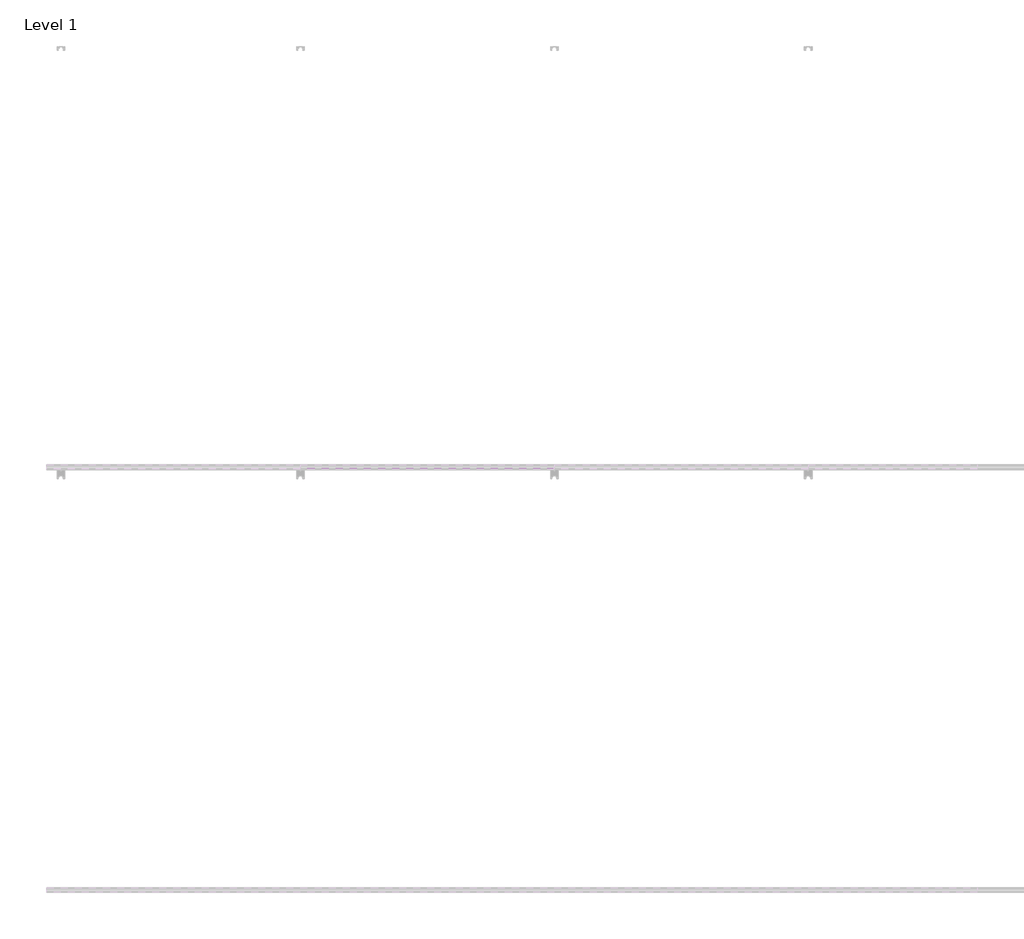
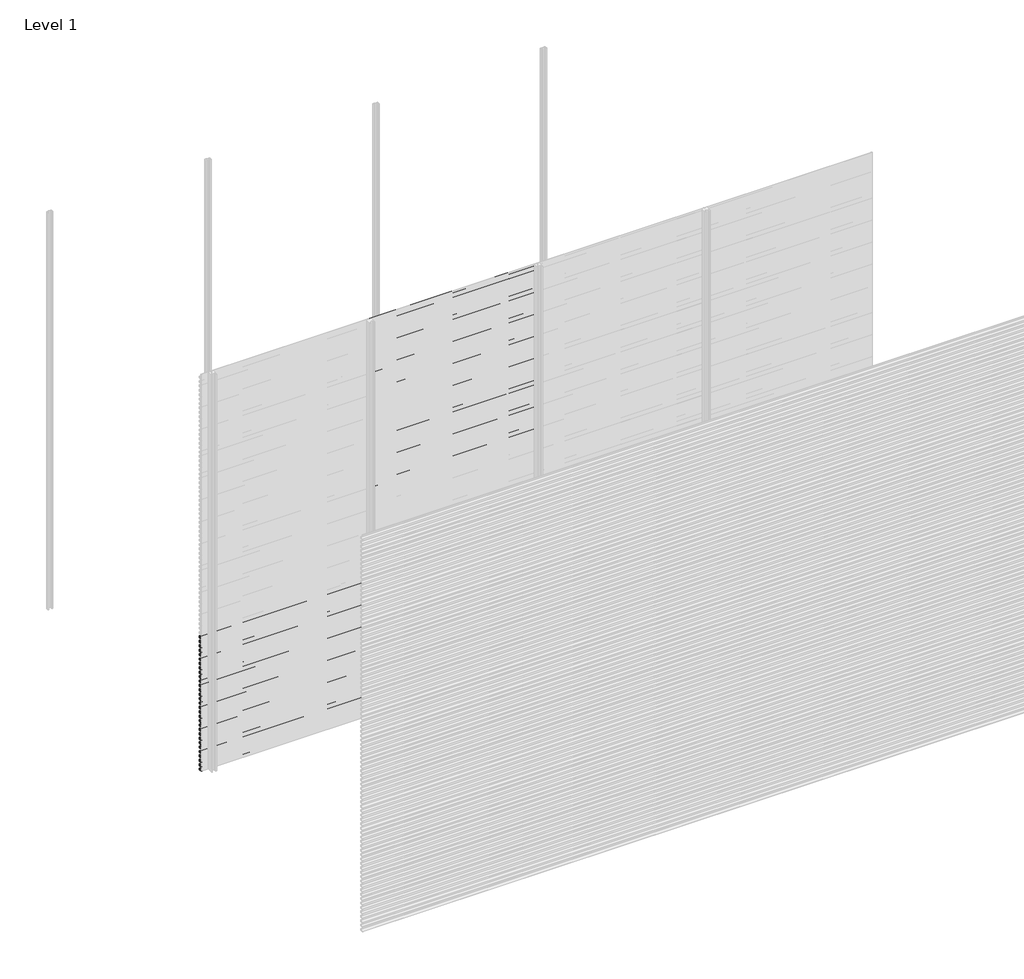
# One storey, part 58 of 77: 72 proxies.
"""IFC4 building model written with IfcOpenShell, lengths in millimetres."""

from ifc_helpers import new_model, si_unit, frame, origin, place, context, project, spatial, polyline, outline, extrude, element, save

model = new_model("IFC4")

# Units and contexts
model_context = context("Model", 3, world=origin())
ifc_project = project(units=[si_unit("LENGTHUNIT", "METRE", prefix="MILLI")], contexts=[model_context])

# Site, building, storey
site = spatial("IfcSite", under=ifc_project)
building = spatial("IfcBuilding", under=site)
storey = spatial("IfcBuildingStorey", under=building, Name="Level 1", Elevation=0.0)

# Proxies
placement = place(None, origin())
element("IfcBuildingElementProxy", 1, Name="Wall Sweeps", at=placement, inside=storey, context=model_context, shape_type="SweptSolid", body=[
    extrude(outline(polyline([(-11978.6, 1007.8359887), (-11998.0, 1019.0366691), (-11998.0, 1032.3), (-11997.0, 1032.3), (-11997.0, 1019.6191057), (-11977.6, 1008.4185105), (-11977.6, 994.8185105), (-11978.6, 996.3953129), (-11978.6, 1002.2032062), (-11995.9773817, 994.1), (-11996.4, 995.0063078), (-11978.6, 1003.3065841), (-11978.6, 1007.8359887)])), frame((0.0, 0.0, 0.0), z_axis=(1.0, 0.0, 0.0), x_axis=(0.0, 1.0, 0.0)), (0.0, 0.0, 1.0), 1200.0),
])
element("IfcBuildingElementProxy", 2, Name="Wall Sweeps", at=placement, inside=storey, context=model_context, shape_type="SweptSolid", body=[
    extrude(outline(polyline([(-11978.6, 974.5359887), (-11998.0, 985.7366691), (-11998.0, 999.0), (-11997.0, 999.0), (-11997.0, 986.3191057), (-11977.6, 975.1185105), (-11977.6, 961.5185105), (-11978.6, 963.0953129), (-11978.6, 968.9032062), (-11995.9773817, 960.8), (-11996.4, 961.7063078), (-11978.6, 970.0065841), (-11978.6, 974.5359887)])), frame((0.0, 0.0, 0.0), z_axis=(1.0, 0.0, 0.0), x_axis=(0.0, 1.0, 0.0)), (0.0, 0.0, 1.0), 1200.0),
])
element("IfcBuildingElementProxy", 3, Name="Wall Sweeps", at=placement, inside=storey, context=model_context, shape_type="SweptSolid", body=[
    extrude(outline(polyline([(-11978.6, 941.2359887), (-11998.0, 952.4366691), (-11998.0, 965.7), (-11997.0, 965.7), (-11997.0, 953.0191057), (-11977.6, 941.8185105), (-11977.6, 928.2185105), (-11978.6, 929.7953129), (-11978.6, 935.6032062), (-11995.9773817, 927.5), (-11996.4, 928.4063078), (-11978.6, 936.7065841), (-11978.6, 941.2359887)])), frame((0.0, 0.0, 0.0), z_axis=(1.0, 0.0, 0.0), x_axis=(0.0, 1.0, 0.0)), (0.0, 0.0, 1.0), 1200.0),
])
element("IfcBuildingElementProxy", 4, Name="Wall Sweeps", at=placement, inside=storey, context=model_context, shape_type="SweptSolid", body=[
    extrude(outline(polyline([(-11978.6, 907.9359887), (-11998.0, 919.1366691), (-11998.0, 932.4), (-11997.0, 932.4), (-11997.0, 919.7191057), (-11977.6, 908.5185105), (-11977.6, 894.9185105), (-11978.6, 896.4953129), (-11978.6, 902.3032062), (-11995.9773817, 894.2), (-11996.4, 895.1063078), (-11978.6, 903.4065841), (-11978.6, 907.9359887)])), frame((0.0, 0.0, 0.0), z_axis=(1.0, 0.0, 0.0), x_axis=(0.0, 1.0, 0.0)), (0.0, 0.0, 1.0), 1200.0),
])
element("IfcBuildingElementProxy", 5, Name="Wall Sweeps", at=placement, inside=storey, context=model_context, shape_type="SweptSolid", body=[
    extrude(outline(polyline([(-11978.6, 874.6359887), (-11998.0, 885.8366691), (-11998.0, 899.1), (-11997.0, 899.1), (-11997.0, 886.4191057), (-11977.6, 875.2185105), (-11977.6, 861.6185105), (-11978.6, 863.1953129), (-11978.6, 869.0032062), (-11995.9773817, 860.9), (-11996.4, 861.8063078), (-11978.6, 870.1065841), (-11978.6, 874.6359887)])), frame((0.0, 0.0, 0.0), z_axis=(1.0, 0.0, 0.0), x_axis=(0.0, 1.0, 0.0)), (0.0, 0.0, 1.0), 1200.0),
])
element("IfcBuildingElementProxy", 6, Name="Wall Sweeps", at=placement, inside=storey, context=model_context, shape_type="SweptSolid", body=[
    extrude(outline(polyline([(-11978.6, 841.3359887), (-11998.0, 852.5366691), (-11998.0, 865.8), (-11997.0, 865.8), (-11997.0, 853.1191057), (-11977.6, 841.9185105), (-11977.6, 828.3185105), (-11978.6, 829.8953129), (-11978.6, 835.7032062), (-11995.9773817, 827.6), (-11996.4, 828.5063078), (-11978.6, 836.8065841), (-11978.6, 841.3359887)])), frame((0.0, 0.0, 0.0), z_axis=(1.0, 0.0, 0.0), x_axis=(0.0, 1.0, 0.0)), (0.0, 0.0, 1.0), 1200.0),
])
element("IfcBuildingElementProxy", 7, Name="Wall Sweeps", at=placement, inside=storey, context=model_context, shape_type="SweptSolid", body=[
    extrude(outline(polyline([(-11978.6, 808.0359887), (-11998.0, 819.2366691), (-11998.0, 832.5), (-11997.0, 832.5), (-11997.0, 819.8191057), (-11977.6, 808.6185105), (-11977.6, 795.0185105), (-11978.6, 796.5953129), (-11978.6, 802.4032062), (-11995.9773817, 794.3), (-11996.4, 795.2063078), (-11978.6, 803.5065841), (-11978.6, 808.0359887)])), frame((0.0, 0.0, 0.0), z_axis=(1.0, 0.0, 0.0), x_axis=(0.0, 1.0, 0.0)), (0.0, 0.0, 1.0), 1200.0),
])
element("IfcBuildingElementProxy", 8, Name="Wall Sweeps", at=placement, inside=storey, context=model_context, shape_type="SweptSolid", body=[
    extrude(outline(polyline([(-11978.6, 774.7359887), (-11998.0, 785.9366691), (-11998.0, 799.2), (-11997.0, 799.2), (-11997.0, 786.5191057), (-11977.6, 775.3185105), (-11977.6, 761.7185105), (-11978.6, 763.2953129), (-11978.6, 769.1032062), (-11995.9773817, 761.0), (-11996.4, 761.9063078), (-11978.6, 770.2065841), (-11978.6, 774.7359887)])), frame((0.0, 0.0, 0.0), z_axis=(1.0, 0.0, 0.0), x_axis=(0.0, 1.0, 0.0)), (0.0, 0.0, 1.0), 1200.0),
])
element("IfcBuildingElementProxy", 9, Name="Wall Sweeps", at=placement, inside=storey, context=model_context, shape_type="SweptSolid", body=[
    extrude(outline(polyline([(-11978.6, 741.4359887), (-11998.0, 752.6366691), (-11998.0, 765.9), (-11997.0, 765.9), (-11997.0, 753.2191057), (-11977.6, 742.0185105), (-11977.6, 728.4185105), (-11978.6, 729.9953129), (-11978.6, 735.8032062), (-11995.9773817, 727.7), (-11996.4, 728.6063078), (-11978.6, 736.9065841), (-11978.6, 741.4359887)])), frame((0.0, 0.0, 0.0), z_axis=(1.0, 0.0, 0.0), x_axis=(0.0, 1.0, 0.0)), (0.0, 0.0, 1.0), 1200.0),
])
element("IfcBuildingElementProxy", 10, Name="Wall Sweeps", at=placement, inside=storey, context=model_context, shape_type="SweptSolid", body=[
    extrude(outline(polyline([(-11978.6, 708.1359887), (-11998.0, 719.3366691), (-11998.0, 732.6), (-11997.0, 732.6), (-11997.0, 719.9191057), (-11977.6, 708.7185105), (-11977.6, 695.1185105), (-11978.6, 696.6953129), (-11978.6, 702.5032062), (-11995.9773817, 694.4), (-11996.4, 695.3063078), (-11978.6, 703.6065841), (-11978.6, 708.1359887)])), frame((0.0, 0.0, 0.0), z_axis=(1.0, 0.0, 0.0), x_axis=(0.0, 1.0, 0.0)), (0.0, 0.0, 1.0), 1200.0),
])
element("IfcBuildingElementProxy", 11, Name="Wall Sweeps", at=placement, inside=storey, context=model_context, shape_type="SweptSolid", body=[
    extrude(outline(polyline([(-11978.6, 674.8359887), (-11998.0, 686.0366691), (-11998.0, 699.3), (-11997.0, 699.3), (-11997.0, 686.6191057), (-11977.6, 675.4185105), (-11977.6, 661.8185105), (-11978.6, 663.3953129), (-11978.6, 669.2032062), (-11995.9773817, 661.1), (-11996.4, 662.0063078), (-11978.6, 670.3065841), (-11978.6, 674.8359887)])), frame((0.0, 0.0, 0.0), z_axis=(1.0, 0.0, 0.0), x_axis=(0.0, 1.0, 0.0)), (0.0, 0.0, 1.0), 1200.0),
])
element("IfcBuildingElementProxy", 12, Name="Wall Sweeps", at=placement, inside=storey, context=model_context, shape_type="SweptSolid", body=[
    extrude(outline(polyline([(-11978.6, 641.5359887), (-11998.0, 652.7366691), (-11998.0, 666.0), (-11997.0, 666.0), (-11997.0, 653.3191057), (-11977.6, 642.1185105), (-11977.6, 628.5185105), (-11978.6, 630.0953129), (-11978.6, 635.9032062), (-11995.9773817, 627.8), (-11996.4, 628.7063078), (-11978.6, 637.0065841), (-11978.6, 641.5359887)])), frame((0.0, 0.0, 0.0), z_axis=(1.0, 0.0, 0.0), x_axis=(0.0, 1.0, 0.0)), (0.0, 0.0, 1.0), 1200.0),
])
element("IfcBuildingElementProxy", 13, Name="Wall Sweeps", at=placement, inside=storey, context=model_context, shape_type="SweptSolid", body=[
    extrude(outline(polyline([(-11978.6, 608.2359887), (-11998.0, 619.4366691), (-11998.0, 632.7), (-11997.0, 632.7), (-11997.0, 620.0191057), (-11977.6, 608.8185105), (-11977.6, 595.2185105), (-11978.6, 596.7953129), (-11978.6, 602.6032062), (-11995.9773817, 594.5), (-11996.4, 595.4063078), (-11978.6, 603.7065841), (-11978.6, 608.2359887)])), frame((0.0, 0.0, 0.0), z_axis=(1.0, 0.0, 0.0), x_axis=(0.0, 1.0, 0.0)), (0.0, 0.0, 1.0), 1200.0),
])
element("IfcBuildingElementProxy", 14, Name="Wall Sweeps", at=placement, inside=storey, context=model_context, shape_type="SweptSolid", body=[
    extrude(outline(polyline([(-11978.6, 574.9359887), (-11998.0, 586.1366691), (-11998.0, 599.4), (-11997.0, 599.4), (-11997.0, 586.7191057), (-11977.6, 575.5185105), (-11977.6, 561.9185105), (-11978.6, 563.4953129), (-11978.6, 569.3032062), (-11995.9773817, 561.2), (-11996.4, 562.1063078), (-11978.6, 570.4065841), (-11978.6, 574.9359887)])), frame((0.0, 0.0, 0.0), z_axis=(1.0, 0.0, 0.0), x_axis=(0.0, 1.0, 0.0)), (0.0, 0.0, 1.0), 1200.0),
])
element("IfcBuildingElementProxy", 15, Name="Wall Sweeps", at=placement, inside=storey, context=model_context, shape_type="SweptSolid", body=[
    extrude(outline(polyline([(-11978.6, 541.6359887), (-11998.0, 552.8366691), (-11998.0, 566.1), (-11997.0, 566.1), (-11997.0, 553.4191057), (-11977.6, 542.2185105), (-11977.6, 528.6185105), (-11978.6, 530.1953129), (-11978.6, 536.0032062), (-11995.9773817, 527.9), (-11996.4, 528.8063078), (-11978.6, 537.1065841), (-11978.6, 541.6359887)])), frame((0.0, 0.0, 0.0), z_axis=(1.0, 0.0, 0.0), x_axis=(0.0, 1.0, 0.0)), (0.0, 0.0, 1.0), 1200.0),
])
element("IfcBuildingElementProxy", 16, Name="Wall Sweeps", at=placement, inside=storey, context=model_context, shape_type="SweptSolid", body=[
    extrude(outline(polyline([(-11978.6, 508.3359887), (-11998.0, 519.5366691), (-11998.0, 532.8), (-11997.0, 532.8), (-11997.0, 520.1191057), (-11977.6, 508.9185105), (-11977.6, 495.3185105), (-11978.6, 496.8953129), (-11978.6, 502.7032062), (-11995.9773817, 494.6), (-11996.4, 495.5063078), (-11978.6, 503.8065841), (-11978.6, 508.3359887)])), frame((0.0, 0.0, 0.0), z_axis=(1.0, 0.0, 0.0), x_axis=(0.0, 1.0, 0.0)), (0.0, 0.0, 1.0), 1200.0),
])
element("IfcBuildingElementProxy", 17, Name="Wall Sweeps", at=placement, inside=storey, context=model_context, shape_type="SweptSolid", body=[
    extrude(outline(polyline([(-11978.6, 475.0359887), (-11998.0, 486.2366691), (-11998.0, 499.5), (-11997.0, 499.5), (-11997.0, 486.8191057), (-11977.6, 475.6185105), (-11977.6, 462.0185105), (-11978.6, 463.5953129), (-11978.6, 469.4032062), (-11995.9773817, 461.3), (-11996.4, 462.2063078), (-11978.6, 470.5065841), (-11978.6, 475.0359887)])), frame((0.0, 0.0, 0.0), z_axis=(1.0, 0.0, 0.0), x_axis=(0.0, 1.0, 0.0)), (0.0, 0.0, 1.0), 1200.0),
])
element("IfcBuildingElementProxy", 18, Name="Wall Sweeps", at=placement, inside=storey, context=model_context, shape_type="SweptSolid", body=[
    extrude(outline(polyline([(-11978.6, 441.7359887), (-11998.0, 452.9366691), (-11998.0, 466.2), (-11997.0, 466.2), (-11997.0, 453.5191057), (-11977.6, 442.3185105), (-11977.6, 428.7185105), (-11978.6, 430.2953129), (-11978.6, 436.1032062), (-11995.9773817, 428.0), (-11996.4, 428.9063078), (-11978.6, 437.2065841), (-11978.6, 441.7359887)])), frame((0.0, 0.0, 0.0), z_axis=(1.0, 0.0, 0.0), x_axis=(0.0, 1.0, 0.0)), (0.0, 0.0, 1.0), 1200.0),
])
element("IfcBuildingElementProxy", 19, Name="Wall Sweeps", at=placement, inside=storey, context=model_context, shape_type="SweptSolid", body=[
    extrude(outline(polyline([(-11978.6, 408.4359887), (-11998.0, 419.6366691), (-11998.0, 432.9), (-11997.0, 432.9), (-11997.0, 420.2191057), (-11977.6, 409.0185105), (-11977.6, 395.4185105), (-11978.6, 396.9953129), (-11978.6, 402.8032062), (-11995.9773817, 394.7), (-11996.4, 395.6063078), (-11978.6, 403.9065841), (-11978.6, 408.4359887)])), frame((0.0, 0.0, 0.0), z_axis=(1.0, 0.0, 0.0), x_axis=(0.0, 1.0, 0.0)), (0.0, 0.0, 1.0), 1200.0),
])
element("IfcBuildingElementProxy", 20, Name="Wall Sweeps", at=placement, inside=storey, context=model_context, shape_type="SweptSolid", body=[
    extrude(outline(polyline([(-11978.6, 375.1359887), (-11998.0, 386.3366691), (-11998.0, 399.6), (-11997.0, 399.6), (-11997.0, 386.9191057), (-11977.6, 375.7185105), (-11977.6, 362.1185105), (-11978.6, 363.6953129), (-11978.6, 369.5032062), (-11995.9773817, 361.4), (-11996.4, 362.3063078), (-11978.6, 370.6065841), (-11978.6, 375.1359887)])), frame((0.0, 0.0, 0.0), z_axis=(1.0, 0.0, 0.0), x_axis=(0.0, 1.0, 0.0)), (0.0, 0.0, 1.0), 1200.0),
])
element("IfcBuildingElementProxy", 21, Name="Wall Sweeps", at=placement, inside=storey, context=model_context, shape_type="SweptSolid", body=[
    extrude(outline(polyline([(-11978.6, 341.8359887), (-11998.0, 353.0366691), (-11998.0, 366.3), (-11997.0, 366.3), (-11997.0, 353.6191057), (-11977.6, 342.4185105), (-11977.6, 328.8185105), (-11978.6, 330.3953129), (-11978.6, 336.2032062), (-11995.9773817, 328.1), (-11996.4, 329.0063078), (-11978.6, 337.3065841), (-11978.6, 341.8359887)])), frame((0.0, 0.0, 0.0), z_axis=(1.0, 0.0, 0.0), x_axis=(0.0, 1.0, 0.0)), (0.0, 0.0, 1.0), 1200.0),
])
element("IfcBuildingElementProxy", 22, Name="Wall Sweeps", at=placement, inside=storey, context=model_context, shape_type="SweptSolid", body=[
    extrude(outline(polyline([(-11978.6, 308.5359887), (-11998.0, 319.7366691), (-11998.0, 333.0), (-11997.0, 333.0), (-11997.0, 320.3191057), (-11977.6, 309.1185105), (-11977.6, 295.5185105), (-11978.6, 297.0953129), (-11978.6, 302.9032062), (-11995.9773817, 294.8), (-11996.4, 295.7063078), (-11978.6, 304.0065841), (-11978.6, 308.5359887)])), frame((0.0, 0.0, 0.0), z_axis=(1.0, 0.0, 0.0), x_axis=(0.0, 1.0, 0.0)), (0.0, 0.0, 1.0), 1200.0),
])
element("IfcBuildingElementProxy", 23, Name="Wall Sweeps", at=placement, inside=storey, context=model_context, shape_type="SweptSolid", body=[
    extrude(outline(polyline([(-11978.6, 275.2359887), (-11998.0, 286.4366691), (-11998.0, 299.7), (-11997.0, 299.7), (-11997.0, 287.0191057), (-11977.6, 275.8185105), (-11977.6, 262.2185105), (-11978.6, 263.7953129), (-11978.6, 269.6032062), (-11995.9773817, 261.5), (-11996.4, 262.4063078), (-11978.6, 270.7065841), (-11978.6, 275.2359887)])), frame((0.0, 0.0, 0.0), z_axis=(1.0, 0.0, 0.0), x_axis=(0.0, 1.0, 0.0)), (0.0, 0.0, 1.0), 1200.0),
])
element("IfcBuildingElementProxy", 24, Name="Wall Sweeps", at=placement, inside=storey, context=model_context, shape_type="SweptSolid", body=[
    extrude(outline(polyline([(-11978.6, 241.9359887), (-11998.0, 253.1366691), (-11998.0, 266.4), (-11997.0, 266.4), (-11997.0, 253.7191057), (-11977.6, 242.5185105), (-11977.6, 228.9185105), (-11978.6, 230.4953129), (-11978.6, 236.3032062), (-11995.9773817, 228.2), (-11996.4, 229.1063078), (-11978.6, 237.4065841), (-11978.6, 241.9359887)])), frame((0.0, 0.0, 0.0), z_axis=(1.0, 0.0, 0.0), x_axis=(0.0, 1.0, 0.0)), (0.0, 0.0, 1.0), 1200.0),
])
element("IfcBuildingElementProxy", 25, Name="Wall Sweeps", at=placement, inside=storey, context=model_context, shape_type="SweptSolid", body=[
    extrude(outline(polyline([(-11978.6, 208.6359887), (-11998.0, 219.8366691), (-11998.0, 233.1), (-11997.0, 233.1), (-11997.0, 220.4191057), (-11977.6, 209.2185105), (-11977.6, 195.6185105), (-11978.6, 197.1953129), (-11978.6, 203.0032062), (-11995.9773817, 194.9), (-11996.4, 195.8063078), (-11978.6, 204.1065841), (-11978.6, 208.6359887)])), frame((0.0, 0.0, 0.0), z_axis=(1.0, 0.0, 0.0), x_axis=(0.0, 1.0, 0.0)), (0.0, 0.0, 1.0), 1200.0),
])
element("IfcBuildingElementProxy", 26, Name="Wall Sweeps", at=placement, inside=storey, context=model_context, shape_type="SweptSolid", body=[
    extrude(outline(polyline([(-11978.6, 175.3359887), (-11998.0, 186.5366691), (-11998.0, 199.8), (-11997.0, 199.8), (-11997.0, 187.1191057), (-11977.6, 175.9185105), (-11977.6, 162.3185105), (-11978.6, 163.8953129), (-11978.6, 169.7032062), (-11995.9773817, 161.6), (-11996.4, 162.5063078), (-11978.6, 170.8065841), (-11978.6, 175.3359887)])), frame((0.0, 0.0, 0.0), z_axis=(1.0, 0.0, 0.0), x_axis=(0.0, 1.0, 0.0)), (0.0, 0.0, 1.0), 1200.0),
])
element("IfcBuildingElementProxy", 27, Name="Wall Sweeps", at=placement, inside=storey, context=model_context, shape_type="SweptSolid", body=[
    extrude(outline(polyline([(-11978.6, 142.0359887), (-11998.0, 153.2366691), (-11998.0, 166.5), (-11997.0, 166.5), (-11997.0, 153.8191057), (-11977.6, 142.6185105), (-11977.6, 129.0185105), (-11978.6, 130.5953129), (-11978.6, 136.4032062), (-11995.9773817, 128.3), (-11996.4, 129.2063078), (-11978.6, 137.5065841), (-11978.6, 142.0359887)])), frame((0.0, 0.0, 0.0), z_axis=(1.0, 0.0, 0.0), x_axis=(0.0, 1.0, 0.0)), (0.0, 0.0, 1.0), 1200.0),
])
element("IfcBuildingElementProxy", 28, Name="Wall Sweeps", at=placement, inside=storey, context=model_context, shape_type="SweptSolid", body=[
    extrude(outline(polyline([(-11978.6, 108.7359887), (-11998.0, 119.9366691), (-11998.0, 133.2), (-11997.0, 133.2), (-11997.0, 120.5191057), (-11977.6, 109.3185105), (-11977.6, 95.7185105), (-11978.6, 97.2953129), (-11978.6, 103.1032062), (-11995.9773817, 95.0), (-11996.4, 95.9063078), (-11978.6, 104.2065841), (-11978.6, 108.7359887)])), frame((0.0, 0.0, 0.0), z_axis=(1.0, 0.0, 0.0), x_axis=(0.0, 1.0, 0.0)), (0.0, 0.0, 1.0), 1200.0),
])
element("IfcBuildingElementProxy", 29, Name="Wall Sweeps", at=placement, inside=storey, context=model_context, shape_type="SweptSolid", body=[
    extrude(outline(polyline([(-11978.6, 75.4359887), (-11998.0, 86.6366691), (-11998.0, 99.9), (-11997.0, 99.9), (-11997.0, 87.2191057), (-11977.6, 76.0185105), (-11977.6, 62.4185105), (-11978.6, 63.9953129), (-11978.6, 69.8032062), (-11995.9773817, 61.7), (-11996.4, 62.6063078), (-11978.6, 70.9065841), (-11978.6, 75.4359887)])), frame((0.0, 0.0, 0.0), z_axis=(1.0, 0.0, 0.0), x_axis=(0.0, 1.0, 0.0)), (0.0, 0.0, 1.0), 1200.0),
])
element("IfcBuildingElementProxy", 30, Name="Wall Sweeps", at=placement, inside=storey, context=model_context, shape_type="SweptSolid", body=[
    extrude(outline(polyline([(-11978.6, 42.1359887), (-11998.0, 53.3366691), (-11998.0, 66.6), (-11997.0, 66.6), (-11997.0, 53.9191057), (-11977.6, 42.7185105), (-11977.6, 29.1185105), (-11978.6, 30.6953129), (-11978.6, 36.5032062), (-11995.9773817, 28.4), (-11996.4, 29.3063078), (-11978.6, 37.6065841), (-11978.6, 42.1359887)])), frame((0.0, 0.0, 0.0), z_axis=(1.0, 0.0, 0.0), x_axis=(0.0, 1.0, 0.0)), (0.0, 0.0, 1.0), 1200.0),
])
element("IfcBuildingElementProxy", 31, Name="Wall Sweeps", at=placement, inside=storey, context=model_context, shape_type="SweptSolid", body=[
    extrude(outline(polyline([(-11978.6, 8.8359887), (-11998.0, 20.0366691), (-11998.0, 33.3), (-11997.0, 33.3), (-11997.0, 20.6191057), (-11977.6, 9.4185105), (-11977.6, -4.1814895), (-11978.6, -2.6046871), (-11978.6, 3.2032062), (-11995.9773817, -4.9), (-11996.4, -3.9936922), (-11978.6, 4.3065841), (-11978.6, 8.8359887)])), frame((0.0, 0.0, 0.0), z_axis=(1.0, 0.0, 0.0), x_axis=(0.0, 1.0, 0.0)), (0.0, 0.0, 1.0), 1200.0),
])
element("IfcBuildingElementProxy", 32, Name="Wall Sweeps", at=placement, inside=storey, context=model_context, shape_type="SweptSolid", body=[
    extrude(outline(polyline([(-11978.6, 2972.5359887), (-11998.0, 2983.7366691), (-11998.0, 2997.0), (-11997.0, 2997.0), (-11997.0, 2984.3191057), (-11977.6, 2973.1185105), (-11977.6, 2959.5185105), (-11978.6, 2961.0953129), (-11978.6, 2966.9032062), (-11995.9773817, 2958.8), (-11996.4, 2959.7063078), (-11978.6, 2968.0065841), (-11978.6, 2972.5359887)])), frame((1200.0, 0.0, 0.0), z_axis=(1.0, 0.0, 0.0), x_axis=(0.0, 1.0, 0.0)), (0.0, 0.0, 1.0), 1200.0),
])
element("IfcBuildingElementProxy", 33, Name="Wall Sweeps", at=placement, inside=storey, context=model_context, shape_type="SweptSolid", body=[
    extrude(outline(polyline([(-11978.6, 2939.2359887), (-11998.0, 2950.4366691), (-11998.0, 2963.7), (-11997.0, 2963.7), (-11997.0, 2951.0191057), (-11977.6, 2939.8185105), (-11977.6, 2926.2185105), (-11978.6, 2927.7953129), (-11978.6, 2933.6032062), (-11995.9773817, 2925.5), (-11996.4, 2926.4063078), (-11978.6, 2934.7065841), (-11978.6, 2939.2359887)])), frame((1200.0, 0.0, 0.0), z_axis=(1.0, 0.0, 0.0), x_axis=(0.0, 1.0, 0.0)), (0.0, 0.0, 1.0), 1200.0),
])
element("IfcBuildingElementProxy", 34, Name="Wall Sweeps", at=placement, inside=storey, context=model_context, shape_type="SweptSolid", body=[
    extrude(outline(polyline([(-11978.6, 2905.9359887), (-11998.0, 2917.1366691), (-11998.0, 2930.4), (-11997.0, 2930.4), (-11997.0, 2917.7191057), (-11977.6, 2906.5185105), (-11977.6, 2892.9185105), (-11978.6, 2894.4953129), (-11978.6, 2900.3032062), (-11995.9773817, 2892.2), (-11996.4, 2893.1063078), (-11978.6, 2901.4065841), (-11978.6, 2905.9359887)])), frame((1200.0, 0.0, 0.0), z_axis=(1.0, 0.0, 0.0), x_axis=(0.0, 1.0, 0.0)), (0.0, 0.0, 1.0), 1200.0),
])
element("IfcBuildingElementProxy", 35, Name="Wall Sweeps", at=placement, inside=storey, context=model_context, shape_type="SweptSolid", body=[
    extrude(outline(polyline([(-11978.6, 2872.6359887), (-11998.0, 2883.8366691), (-11998.0, 2897.1), (-11997.0, 2897.1), (-11997.0, 2884.4191057), (-11977.6, 2873.2185105), (-11977.6, 2859.6185105), (-11978.6, 2861.1953129), (-11978.6, 2867.0032062), (-11995.9773817, 2858.9), (-11996.4, 2859.8063078), (-11978.6, 2868.1065841), (-11978.6, 2872.6359887)])), frame((1200.0, 0.0, 0.0), z_axis=(1.0, 0.0, 0.0), x_axis=(0.0, 1.0, 0.0)), (0.0, 0.0, 1.0), 1200.0),
])
element("IfcBuildingElementProxy", 36, Name="Wall Sweeps", at=placement, inside=storey, context=model_context, shape_type="SweptSolid", body=[
    extrude(outline(polyline([(-11978.6, 2839.3359887), (-11998.0, 2850.5366691), (-11998.0, 2863.8), (-11997.0, 2863.8), (-11997.0, 2851.1191057), (-11977.6, 2839.9185105), (-11977.6, 2826.3185105), (-11978.6, 2827.8953129), (-11978.6, 2833.7032062), (-11995.9773817, 2825.6), (-11996.4, 2826.5063078), (-11978.6, 2834.8065841), (-11978.6, 2839.3359887)])), frame((1200.0, 0.0, 0.0), z_axis=(1.0, 0.0, 0.0), x_axis=(0.0, 1.0, 0.0)), (0.0, 0.0, 1.0), 1200.0),
])
element("IfcBuildingElementProxy", 37, Name="Wall Sweeps", at=placement, inside=storey, context=model_context, shape_type="SweptSolid", body=[
    extrude(outline(polyline([(-11978.6, 2806.0359887), (-11998.0, 2817.2366691), (-11998.0, 2830.5), (-11997.0, 2830.5), (-11997.0, 2817.8191057), (-11977.6, 2806.6185105), (-11977.6, 2793.0185105), (-11978.6, 2794.5953129), (-11978.6, 2800.4032062), (-11995.9773817, 2792.3), (-11996.4, 2793.2063078), (-11978.6, 2801.5065841), (-11978.6, 2806.0359887)])), frame((1200.0, 0.0, 0.0), z_axis=(1.0, 0.0, 0.0), x_axis=(0.0, 1.0, 0.0)), (0.0, 0.0, 1.0), 1200.0),
])
element("IfcBuildingElementProxy", 38, Name="Wall Sweeps", at=placement, inside=storey, context=model_context, shape_type="SweptSolid", body=[
    extrude(outline(polyline([(-11978.6, 2772.7359887), (-11998.0, 2783.9366691), (-11998.0, 2797.2), (-11997.0, 2797.2), (-11997.0, 2784.5191057), (-11977.6, 2773.3185105), (-11977.6, 2759.7185105), (-11978.6, 2761.2953129), (-11978.6, 2767.1032062), (-11995.9773817, 2759.0), (-11996.4, 2759.9063078), (-11978.6, 2768.2065841), (-11978.6, 2772.7359887)])), frame((1200.0, 0.0, 0.0), z_axis=(1.0, 0.0, 0.0), x_axis=(0.0, 1.0, 0.0)), (0.0, 0.0, 1.0), 1200.0),
])
element("IfcBuildingElementProxy", 39, Name="Wall Sweeps", at=placement, inside=storey, context=model_context, shape_type="SweptSolid", body=[
    extrude(outline(polyline([(-11978.6, 2739.4359887), (-11998.0, 2750.6366691), (-11998.0, 2763.9), (-11997.0, 2763.9), (-11997.0, 2751.2191057), (-11977.6, 2740.0185105), (-11977.6, 2726.4185105), (-11978.6, 2727.9953129), (-11978.6, 2733.8032062), (-11995.9773817, 2725.7), (-11996.4, 2726.6063078), (-11978.6, 2734.9065841), (-11978.6, 2739.4359887)])), frame((1200.0, 0.0, 0.0), z_axis=(1.0, 0.0, 0.0), x_axis=(0.0, 1.0, 0.0)), (0.0, 0.0, 1.0), 1200.0),
])
element("IfcBuildingElementProxy", 40, Name="Wall Sweeps", at=placement, inside=storey, context=model_context, shape_type="SweptSolid", body=[
    extrude(outline(polyline([(-11978.6, 2706.1359887), (-11998.0, 2717.3366691), (-11998.0, 2730.6), (-11997.0, 2730.6), (-11997.0, 2717.9191057), (-11977.6, 2706.7185105), (-11977.6, 2693.1185105), (-11978.6, 2694.6953129), (-11978.6, 2700.5032062), (-11995.9773817, 2692.4), (-11996.4, 2693.3063078), (-11978.6, 2701.6065841), (-11978.6, 2706.1359887)])), frame((1200.0, 0.0, 0.0), z_axis=(1.0, 0.0, 0.0), x_axis=(0.0, 1.0, 0.0)), (0.0, 0.0, 1.0), 1200.0),
])
element("IfcBuildingElementProxy", 41, Name="Wall Sweeps", at=placement, inside=storey, context=model_context, shape_type="SweptSolid", body=[
    extrude(outline(polyline([(-11978.6, 2672.8359887), (-11998.0, 2684.0366691), (-11998.0, 2697.3), (-11997.0, 2697.3), (-11997.0, 2684.6191057), (-11977.6, 2673.4185105), (-11977.6, 2659.8185105), (-11978.6, 2661.3953129), (-11978.6, 2667.2032062), (-11995.9773817, 2659.1), (-11996.4, 2660.0063078), (-11978.6, 2668.3065841), (-11978.6, 2672.8359887)])), frame((1200.0, 0.0, 0.0), z_axis=(1.0, 0.0, 0.0), x_axis=(0.0, 1.0, 0.0)), (0.0, 0.0, 1.0), 1200.0),
])
element("IfcBuildingElementProxy", 42, Name="Wall Sweeps", at=placement, inside=storey, context=model_context, shape_type="SweptSolid", body=[
    extrude(outline(polyline([(-11978.6, 2639.5359887), (-11998.0, 2650.7366691), (-11998.0, 2664.0), (-11997.0, 2664.0), (-11997.0, 2651.3191057), (-11977.6, 2640.1185105), (-11977.6, 2626.5185105), (-11978.6, 2628.0953129), (-11978.6, 2633.9032062), (-11995.9773817, 2625.8), (-11996.4, 2626.7063078), (-11978.6, 2635.0065841), (-11978.6, 2639.5359887)])), frame((1200.0, 0.0, 0.0), z_axis=(1.0, 0.0, 0.0), x_axis=(0.0, 1.0, 0.0)), (0.0, 0.0, 1.0), 1200.0),
])
element("IfcBuildingElementProxy", 43, Name="Wall Sweeps", at=placement, inside=storey, context=model_context, shape_type="SweptSolid", body=[
    extrude(outline(polyline([(-11978.6, 2606.2359887), (-11998.0, 2617.4366691), (-11998.0, 2630.7), (-11997.0, 2630.7), (-11997.0, 2618.0191057), (-11977.6, 2606.8185105), (-11977.6, 2593.2185105), (-11978.6, 2594.7953129), (-11978.6, 2600.6032062), (-11995.9773817, 2592.5), (-11996.4, 2593.4063078), (-11978.6, 2601.7065841), (-11978.6, 2606.2359887)])), frame((1200.0, 0.0, 0.0), z_axis=(1.0, 0.0, 0.0), x_axis=(0.0, 1.0, 0.0)), (0.0, 0.0, 1.0), 1200.0),
])
element("IfcBuildingElementProxy", 44, Name="Wall Sweeps", at=placement, inside=storey, context=model_context, shape_type="SweptSolid", body=[
    extrude(outline(polyline([(-11978.6, 2572.9359887), (-11998.0, 2584.1366691), (-11998.0, 2597.4), (-11997.0, 2597.4), (-11997.0, 2584.7191057), (-11977.6, 2573.5185105), (-11977.6, 2559.9185105), (-11978.6, 2561.4953129), (-11978.6, 2567.3032062), (-11995.9773817, 2559.2), (-11996.4, 2560.1063078), (-11978.6, 2568.4065841), (-11978.6, 2572.9359887)])), frame((1200.0, 0.0, 0.0), z_axis=(1.0, 0.0, 0.0), x_axis=(0.0, 1.0, 0.0)), (0.0, 0.0, 1.0), 1200.0),
])
element("IfcBuildingElementProxy", 45, Name="Wall Sweeps", at=placement, inside=storey, context=model_context, shape_type="SweptSolid", body=[
    extrude(outline(polyline([(-11978.6, 2539.6359887), (-11998.0, 2550.8366691), (-11998.0, 2564.1), (-11997.0, 2564.1), (-11997.0, 2551.4191057), (-11977.6, 2540.2185105), (-11977.6, 2526.6185105), (-11978.6, 2528.1953129), (-11978.6, 2534.0032062), (-11995.9773817, 2525.9), (-11996.4, 2526.8063078), (-11978.6, 2535.1065841), (-11978.6, 2539.6359887)])), frame((1200.0, 0.0, 0.0), z_axis=(1.0, 0.0, 0.0), x_axis=(0.0, 1.0, 0.0)), (0.0, 0.0, 1.0), 1200.0),
])
element("IfcBuildingElementProxy", 46, Name="Wall Sweeps", at=placement, inside=storey, context=model_context, shape_type="SweptSolid", body=[
    extrude(outline(polyline([(-11978.6, 2506.3359887), (-11998.0, 2517.5366691), (-11998.0, 2530.8), (-11997.0, 2530.8), (-11997.0, 2518.1191057), (-11977.6, 2506.9185105), (-11977.6, 2493.3185105), (-11978.6, 2494.8953129), (-11978.6, 2500.7032062), (-11995.9773817, 2492.6), (-11996.4, 2493.5063078), (-11978.6, 2501.8065841), (-11978.6, 2506.3359887)])), frame((1200.0, 0.0, 0.0), z_axis=(1.0, 0.0, 0.0), x_axis=(0.0, 1.0, 0.0)), (0.0, 0.0, 1.0), 1200.0),
])
element("IfcBuildingElementProxy", 47, Name="Wall Sweeps", at=placement, inside=storey, context=model_context, shape_type="SweptSolid", body=[
    extrude(outline(polyline([(-11978.6, 2473.0359887), (-11998.0, 2484.2366691), (-11998.0, 2497.5), (-11997.0, 2497.5), (-11997.0, 2484.8191057), (-11977.6, 2473.6185105), (-11977.6, 2460.0185105), (-11978.6, 2461.5953129), (-11978.6, 2467.4032062), (-11995.9773817, 2459.3), (-11996.4, 2460.2063078), (-11978.6, 2468.5065841), (-11978.6, 2473.0359887)])), frame((1200.0, 0.0, 0.0), z_axis=(1.0, 0.0, 0.0), x_axis=(0.0, 1.0, 0.0)), (0.0, 0.0, 1.0), 1200.0),
])
element("IfcBuildingElementProxy", 48, Name="Wall Sweeps", at=placement, inside=storey, context=model_context, shape_type="SweptSolid", body=[
    extrude(outline(polyline([(-11978.6, 2439.7359887), (-11998.0, 2450.9366691), (-11998.0, 2464.2), (-11997.0, 2464.2), (-11997.0, 2451.5191057), (-11977.6, 2440.3185105), (-11977.6, 2426.7185105), (-11978.6, 2428.2953129), (-11978.6, 2434.1032062), (-11995.9773817, 2426.0), (-11996.4, 2426.9063078), (-11978.6, 2435.2065841), (-11978.6, 2439.7359887)])), frame((1200.0, 0.0, 0.0), z_axis=(1.0, 0.0, 0.0), x_axis=(0.0, 1.0, 0.0)), (0.0, 0.0, 1.0), 1200.0),
])
element("IfcBuildingElementProxy", 49, Name="Wall Sweeps", at=placement, inside=storey, context=model_context, shape_type="SweptSolid", body=[
    extrude(outline(polyline([(-11978.6, 2406.4359887), (-11998.0, 2417.6366691), (-11998.0, 2430.9), (-11997.0, 2430.9), (-11997.0, 2418.2191057), (-11977.6, 2407.0185105), (-11977.6, 2393.4185105), (-11978.6, 2394.9953129), (-11978.6, 2400.8032062), (-11995.9773817, 2392.7), (-11996.4, 2393.6063078), (-11978.6, 2401.9065841), (-11978.6, 2406.4359887)])), frame((1200.0, 0.0, 0.0), z_axis=(1.0, 0.0, 0.0), x_axis=(0.0, 1.0, 0.0)), (0.0, 0.0, 1.0), 1200.0),
])
element("IfcBuildingElementProxy", 50, Name="Wall Sweeps", at=placement, inside=storey, context=model_context, shape_type="SweptSolid", body=[
    extrude(outline(polyline([(-11978.6, 2373.1359887), (-11998.0, 2384.3366691), (-11998.0, 2397.6), (-11997.0, 2397.6), (-11997.0, 2384.9191057), (-11977.6, 2373.7185105), (-11977.6, 2360.1185105), (-11978.6, 2361.6953129), (-11978.6, 2367.5032062), (-11995.9773817, 2359.4), (-11996.4, 2360.3063078), (-11978.6, 2368.6065841), (-11978.6, 2373.1359887)])), frame((1200.0, 0.0, 0.0), z_axis=(1.0, 0.0, 0.0), x_axis=(0.0, 1.0, 0.0)), (0.0, 0.0, 1.0), 1200.0),
])
element("IfcBuildingElementProxy", 51, Name="Wall Sweeps", at=placement, inside=storey, context=model_context, shape_type="SweptSolid", body=[
    extrude(outline(polyline([(-11978.6, 2339.8359887), (-11998.0, 2351.0366691), (-11998.0, 2364.3), (-11997.0, 2364.3), (-11997.0, 2351.6191057), (-11977.6, 2340.4185105), (-11977.6, 2326.8185105), (-11978.6, 2328.3953129), (-11978.6, 2334.2032062), (-11995.9773817, 2326.1), (-11996.4, 2327.0063078), (-11978.6, 2335.3065841), (-11978.6, 2339.8359887)])), frame((1200.0, 0.0, 0.0), z_axis=(1.0, 0.0, 0.0), x_axis=(0.0, 1.0, 0.0)), (0.0, 0.0, 1.0), 1200.0),
])
element("IfcBuildingElementProxy", 52, Name="Wall Sweeps", at=placement, inside=storey, context=model_context, shape_type="SweptSolid", body=[
    extrude(outline(polyline([(-11978.6, 2306.5359887), (-11998.0, 2317.7366691), (-11998.0, 2331.0), (-11997.0, 2331.0), (-11997.0, 2318.3191057), (-11977.6, 2307.1185105), (-11977.6, 2293.5185105), (-11978.6, 2295.0953129), (-11978.6, 2300.9032062), (-11995.9773817, 2292.8), (-11996.4, 2293.7063078), (-11978.6, 2302.0065841), (-11978.6, 2306.5359887)])), frame((1200.0, 0.0, 0.0), z_axis=(1.0, 0.0, 0.0), x_axis=(0.0, 1.0, 0.0)), (0.0, 0.0, 1.0), 1200.0),
])
element("IfcBuildingElementProxy", 53, Name="Wall Sweeps", at=placement, inside=storey, context=model_context, shape_type="SweptSolid", body=[
    extrude(outline(polyline([(-11978.6, 2273.2359887), (-11998.0, 2284.4366691), (-11998.0, 2297.7), (-11997.0, 2297.7), (-11997.0, 2285.0191057), (-11977.6, 2273.8185105), (-11977.6, 2260.2185105), (-11978.6, 2261.7953129), (-11978.6, 2267.6032062), (-11995.9773817, 2259.5), (-11996.4, 2260.4063078), (-11978.6, 2268.7065841), (-11978.6, 2273.2359887)])), frame((1200.0, 0.0, 0.0), z_axis=(1.0, 0.0, 0.0), x_axis=(0.0, 1.0, 0.0)), (0.0, 0.0, 1.0), 1200.0),
])
element("IfcBuildingElementProxy", 54, Name="Wall Sweeps", at=placement, inside=storey, context=model_context, shape_type="SweptSolid", body=[
    extrude(outline(polyline([(-11978.6, 2239.9359887), (-11998.0, 2251.1366691), (-11998.0, 2264.4), (-11997.0, 2264.4), (-11997.0, 2251.7191057), (-11977.6, 2240.5185105), (-11977.6, 2226.9185105), (-11978.6, 2228.4953129), (-11978.6, 2234.3032062), (-11995.9773817, 2226.2), (-11996.4, 2227.1063078), (-11978.6, 2235.4065841), (-11978.6, 2239.9359887)])), frame((1200.0, 0.0, 0.0), z_axis=(1.0, 0.0, 0.0), x_axis=(0.0, 1.0, 0.0)), (0.0, 0.0, 1.0), 1200.0),
])
element("IfcBuildingElementProxy", 55, Name="Wall Sweeps", at=placement, inside=storey, context=model_context, shape_type="SweptSolid", body=[
    extrude(outline(polyline([(-11978.6, 2206.6359887), (-11998.0, 2217.8366691), (-11998.0, 2231.1), (-11997.0, 2231.1), (-11997.0, 2218.4191057), (-11977.6, 2207.2185105), (-11977.6, 2193.6185105), (-11978.6, 2195.1953129), (-11978.6, 2201.0032062), (-11995.9773817, 2192.9), (-11996.4, 2193.8063078), (-11978.6, 2202.1065841), (-11978.6, 2206.6359887)])), frame((1200.0, 0.0, 0.0), z_axis=(1.0, 0.0, 0.0), x_axis=(0.0, 1.0, 0.0)), (0.0, 0.0, 1.0), 1200.0),
])
element("IfcBuildingElementProxy", 56, Name="Wall Sweeps", at=placement, inside=storey, context=model_context, shape_type="SweptSolid", body=[
    extrude(outline(polyline([(-11978.6, 2173.3359887), (-11998.0, 2184.5366691), (-11998.0, 2197.8), (-11997.0, 2197.8), (-11997.0, 2185.1191057), (-11977.6, 2173.9185105), (-11977.6, 2160.3185105), (-11978.6, 2161.8953129), (-11978.6, 2167.7032062), (-11995.9773817, 2159.6), (-11996.4, 2160.5063078), (-11978.6, 2168.8065841), (-11978.6, 2173.3359887)])), frame((1200.0, 0.0, 0.0), z_axis=(1.0, 0.0, 0.0), x_axis=(0.0, 1.0, 0.0)), (0.0, 0.0, 1.0), 1200.0),
])
element("IfcBuildingElementProxy", 57, Name="Wall Sweeps", at=placement, inside=storey, context=model_context, shape_type="SweptSolid", body=[
    extrude(outline(polyline([(-11978.6, 2140.0359887), (-11998.0, 2151.2366691), (-11998.0, 2164.5), (-11997.0, 2164.5), (-11997.0, 2151.8191057), (-11977.6, 2140.6185105), (-11977.6, 2127.0185105), (-11978.6, 2128.5953129), (-11978.6, 2134.4032062), (-11995.9773817, 2126.3), (-11996.4, 2127.2063078), (-11978.6, 2135.5065841), (-11978.6, 2140.0359887)])), frame((1200.0, 0.0, 0.0), z_axis=(1.0, 0.0, 0.0), x_axis=(0.0, 1.0, 0.0)), (0.0, 0.0, 1.0), 1200.0),
])
element("IfcBuildingElementProxy", 58, Name="Wall Sweeps", at=placement, inside=storey, context=model_context, shape_type="SweptSolid", body=[
    extrude(outline(polyline([(-11978.6, 2106.7359887), (-11998.0, 2117.9366691), (-11998.0, 2131.2), (-11997.0, 2131.2), (-11997.0, 2118.5191057), (-11977.6, 2107.3185105), (-11977.6, 2093.7185105), (-11978.6, 2095.2953129), (-11978.6, 2101.1032062), (-11995.9773817, 2093.0), (-11996.4, 2093.9063078), (-11978.6, 2102.2065841), (-11978.6, 2106.7359887)])), frame((1200.0, 0.0, 0.0), z_axis=(1.0, 0.0, 0.0), x_axis=(0.0, 1.0, 0.0)), (0.0, 0.0, 1.0), 1200.0),
])
element("IfcBuildingElementProxy", 59, Name="Wall Sweeps", at=placement, inside=storey, context=model_context, shape_type="SweptSolid", body=[
    extrude(outline(polyline([(-11978.6, 2073.4359887), (-11998.0, 2084.6366691), (-11998.0, 2097.9), (-11997.0, 2097.9), (-11997.0, 2085.2191057), (-11977.6, 2074.0185105), (-11977.6, 2060.4185105), (-11978.6, 2061.9953129), (-11978.6, 2067.8032062), (-11995.9773817, 2059.7), (-11996.4, 2060.6063078), (-11978.6, 2068.9065841), (-11978.6, 2073.4359887)])), frame((1200.0, 0.0, 0.0), z_axis=(1.0, 0.0, 0.0), x_axis=(0.0, 1.0, 0.0)), (0.0, 0.0, 1.0), 1200.0),
])
element("IfcBuildingElementProxy", 60, Name="Wall Sweeps", at=placement, inside=storey, context=model_context, shape_type="SweptSolid", body=[
    extrude(outline(polyline([(-11978.6, 2040.1359887), (-11998.0, 2051.3366691), (-11998.0, 2064.6), (-11997.0, 2064.6), (-11997.0, 2051.9191057), (-11977.6, 2040.7185105), (-11977.6, 2027.1185105), (-11978.6, 2028.6953129), (-11978.6, 2034.5032062), (-11995.9773817, 2026.4), (-11996.4, 2027.3063078), (-11978.6, 2035.6065841), (-11978.6, 2040.1359887)])), frame((1200.0, 0.0, 0.0), z_axis=(1.0, 0.0, 0.0), x_axis=(0.0, 1.0, 0.0)), (0.0, 0.0, 1.0), 1200.0),
])
element("IfcBuildingElementProxy", 61, Name="Wall Sweeps", at=placement, inside=storey, context=model_context, shape_type="SweptSolid", body=[
    extrude(outline(polyline([(-11978.6, 2006.8359887), (-11998.0, 2018.0366691), (-11998.0, 2031.3), (-11997.0, 2031.3), (-11997.0, 2018.6191057), (-11977.6, 2007.4185105), (-11977.6, 1993.8185105), (-11978.6, 1995.3953129), (-11978.6, 2001.2032062), (-11995.9773817, 1993.1), (-11996.4, 1994.0063078), (-11978.6, 2002.3065841), (-11978.6, 2006.8359887)])), frame((1200.0, 0.0, 0.0), z_axis=(1.0, 0.0, 0.0), x_axis=(0.0, 1.0, 0.0)), (0.0, 0.0, 1.0), 1200.0),
])
element("IfcBuildingElementProxy", 62, Name="Wall Sweeps", at=placement, inside=storey, context=model_context, shape_type="SweptSolid", body=[
    extrude(outline(polyline([(-11978.6, 1973.5359887), (-11998.0, 1984.7366691), (-11998.0, 1998.0), (-11997.0, 1998.0), (-11997.0, 1985.3191057), (-11977.6, 1974.1185105), (-11977.6, 1960.5185105), (-11978.6, 1962.0953129), (-11978.6, 1967.9032062), (-11995.9773817, 1959.8), (-11996.4, 1960.7063078), (-11978.6, 1969.0065841), (-11978.6, 1973.5359887)])), frame((1200.0, 0.0, 0.0), z_axis=(1.0, 0.0, 0.0), x_axis=(0.0, 1.0, 0.0)), (0.0, 0.0, 1.0), 1200.0),
])
element("IfcBuildingElementProxy", 63, Name="Wall Sweeps", at=placement, inside=storey, context=model_context, shape_type="SweptSolid", body=[
    extrude(outline(polyline([(-11978.6, 1940.2359887), (-11998.0, 1951.4366691), (-11998.0, 1964.7), (-11997.0, 1964.7), (-11997.0, 1952.0191057), (-11977.6, 1940.8185105), (-11977.6, 1927.2185105), (-11978.6, 1928.7953129), (-11978.6, 1934.6032062), (-11995.9773817, 1926.5), (-11996.4, 1927.4063078), (-11978.6, 1935.7065841), (-11978.6, 1940.2359887)])), frame((1200.0, 0.0, 0.0), z_axis=(1.0, 0.0, 0.0), x_axis=(0.0, 1.0, 0.0)), (0.0, 0.0, 1.0), 1200.0),
])
element("IfcBuildingElementProxy", 64, Name="Wall Sweeps", at=placement, inside=storey, context=model_context, shape_type="SweptSolid", body=[
    extrude(outline(polyline([(-11978.6, 1906.9359887), (-11998.0, 1918.1366691), (-11998.0, 1931.4), (-11997.0, 1931.4), (-11997.0, 1918.7191057), (-11977.6, 1907.5185105), (-11977.6, 1893.9185105), (-11978.6, 1895.4953129), (-11978.6, 1901.3032062), (-11995.9773817, 1893.2), (-11996.4, 1894.1063078), (-11978.6, 1902.4065841), (-11978.6, 1906.9359887)])), frame((1200.0, 0.0, 0.0), z_axis=(1.0, 0.0, 0.0), x_axis=(0.0, 1.0, 0.0)), (0.0, 0.0, 1.0), 1200.0),
])
element("IfcBuildingElementProxy", 65, Name="Wall Sweeps", at=placement, inside=storey, context=model_context, shape_type="SweptSolid", body=[
    extrude(outline(polyline([(-11978.6, 1873.6359887), (-11998.0, 1884.8366691), (-11998.0, 1898.1), (-11997.0, 1898.1), (-11997.0, 1885.4191057), (-11977.6, 1874.2185105), (-11977.6, 1860.6185105), (-11978.6, 1862.1953129), (-11978.6, 1868.0032062), (-11995.9773817, 1859.9), (-11996.4, 1860.8063078), (-11978.6, 1869.1065841), (-11978.6, 1873.6359887)])), frame((1200.0, 0.0, 0.0), z_axis=(1.0, 0.0, 0.0), x_axis=(0.0, 1.0, 0.0)), (0.0, 0.0, 1.0), 1200.0),
])
element("IfcBuildingElementProxy", 66, Name="Wall Sweeps", at=placement, inside=storey, context=model_context, shape_type="SweptSolid", body=[
    extrude(outline(polyline([(-11978.6, 1840.3359887), (-11998.0, 1851.5366691), (-11998.0, 1864.8), (-11997.0, 1864.8), (-11997.0, 1852.1191057), (-11977.6, 1840.9185105), (-11977.6, 1827.3185105), (-11978.6, 1828.8953129), (-11978.6, 1834.7032062), (-11995.9773817, 1826.6), (-11996.4, 1827.5063078), (-11978.6, 1835.8065841), (-11978.6, 1840.3359887)])), frame((1200.0, 0.0, 0.0), z_axis=(1.0, 0.0, 0.0), x_axis=(0.0, 1.0, 0.0)), (0.0, 0.0, 1.0), 1200.0),
])
element("IfcBuildingElementProxy", 67, Name="Wall Sweeps", at=placement, inside=storey, context=model_context, shape_type="SweptSolid", body=[
    extrude(outline(polyline([(-11978.6, 1807.0359887), (-11998.0, 1818.2366691), (-11998.0, 1831.5), (-11997.0, 1831.5), (-11997.0, 1818.8191057), (-11977.6, 1807.6185105), (-11977.6, 1794.0185105), (-11978.6, 1795.5953129), (-11978.6, 1801.4032062), (-11995.9773817, 1793.3), (-11996.4, 1794.2063078), (-11978.6, 1802.5065841), (-11978.6, 1807.0359887)])), frame((1200.0, 0.0, 0.0), z_axis=(1.0, 0.0, 0.0), x_axis=(0.0, 1.0, 0.0)), (0.0, 0.0, 1.0), 1200.0),
])
element("IfcBuildingElementProxy", 68, Name="Wall Sweeps", at=placement, inside=storey, context=model_context, shape_type="SweptSolid", body=[
    extrude(outline(polyline([(-11978.6, 1773.7359887), (-11998.0, 1784.9366691), (-11998.0, 1798.2), (-11997.0, 1798.2), (-11997.0, 1785.5191057), (-11977.6, 1774.3185105), (-11977.6, 1760.7185105), (-11978.6, 1762.2953129), (-11978.6, 1768.1032062), (-11995.9773817, 1760.0), (-11996.4, 1760.9063078), (-11978.6, 1769.2065841), (-11978.6, 1773.7359887)])), frame((1200.0, 0.0, 0.0), z_axis=(1.0, 0.0, 0.0), x_axis=(0.0, 1.0, 0.0)), (0.0, 0.0, 1.0), 1200.0),
])
element("IfcBuildingElementProxy", 69, Name="Wall Sweeps", at=placement, inside=storey, context=model_context, shape_type="SweptSolid", body=[
    extrude(outline(polyline([(-11978.6, 1740.4359887), (-11998.0, 1751.6366691), (-11998.0, 1764.9), (-11997.0, 1764.9), (-11997.0, 1752.2191057), (-11977.6, 1741.0185105), (-11977.6, 1727.4185105), (-11978.6, 1728.9953129), (-11978.6, 1734.8032062), (-11995.9773817, 1726.7), (-11996.4, 1727.6063078), (-11978.6, 1735.9065841), (-11978.6, 1740.4359887)])), frame((1200.0, 0.0, 0.0), z_axis=(1.0, 0.0, 0.0), x_axis=(0.0, 1.0, 0.0)), (0.0, 0.0, 1.0), 1200.0),
])
element("IfcBuildingElementProxy", 70, Name="Wall Sweeps", at=placement, inside=storey, context=model_context, shape_type="SweptSolid", body=[
    extrude(outline(polyline([(-11978.6, 1707.1359887), (-11998.0, 1718.3366691), (-11998.0, 1731.6), (-11997.0, 1731.6), (-11997.0, 1718.9191057), (-11977.6, 1707.7185105), (-11977.6, 1694.1185105), (-11978.6, 1695.6953129), (-11978.6, 1701.5032062), (-11995.9773817, 1693.4), (-11996.4, 1694.3063078), (-11978.6, 1702.6065841), (-11978.6, 1707.1359887)])), frame((1200.0, 0.0, 0.0), z_axis=(1.0, 0.0, 0.0), x_axis=(0.0, 1.0, 0.0)), (0.0, 0.0, 1.0), 1200.0),
])
element("IfcBuildingElementProxy", 71, Name="Wall Sweeps", at=placement, inside=storey, context=model_context, shape_type="SweptSolid", body=[
    extrude(outline(polyline([(-11978.6, 1673.8359887), (-11998.0, 1685.0366691), (-11998.0, 1698.3), (-11997.0, 1698.3), (-11997.0, 1685.6191057), (-11977.6, 1674.4185105), (-11977.6, 1660.8185105), (-11978.6, 1662.3953129), (-11978.6, 1668.2032062), (-11995.9773817, 1660.1), (-11996.4, 1661.0063078), (-11978.6, 1669.3065841), (-11978.6, 1673.8359887)])), frame((1200.0, 0.0, 0.0), z_axis=(1.0, 0.0, 0.0), x_axis=(0.0, 1.0, 0.0)), (0.0, 0.0, 1.0), 1200.0),
])
element("IfcBuildingElementProxy", 72, Name="Wall Sweeps", at=placement, inside=storey, context=model_context, shape_type="SweptSolid", body=[
    extrude(outline(polyline([(-11978.6, 1640.5359887), (-11998.0, 1651.7366691), (-11998.0, 1665.0), (-11997.0, 1665.0), (-11997.0, 1652.3191057), (-11977.6, 1641.1185105), (-11977.6, 1627.5185105), (-11978.6, 1629.0953129), (-11978.6, 1634.9032062), (-11995.9773817, 1626.8), (-11996.4, 1627.7063078), (-11978.6, 1636.0065841), (-11978.6, 1640.5359887)])), frame((1200.0, 0.0, 0.0), z_axis=(1.0, 0.0, 0.0), x_axis=(0.0, 1.0, 0.0)), (0.0, 0.0, 1.0), 1200.0),
])

save(model, "model.ifc")
